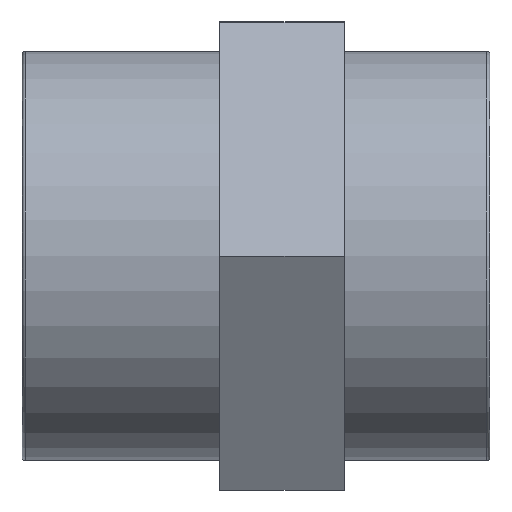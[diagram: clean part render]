
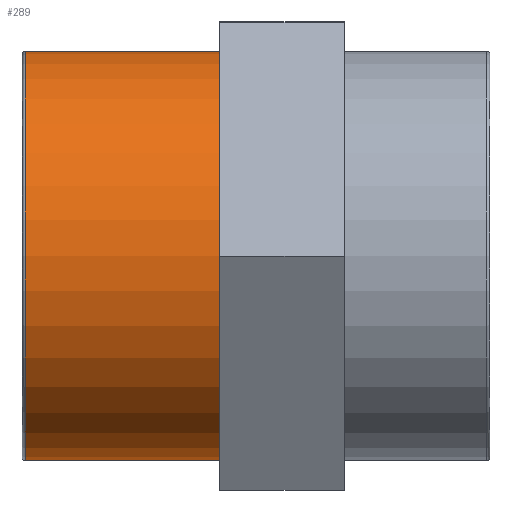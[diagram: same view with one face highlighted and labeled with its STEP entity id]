
A CAD part, top view. The second image highlights one B-rep face of the part: STEP entity #289.
In plain terms, the highlighted cylindrical face has radius 19.689 mm (diameter 39.378 mm), a full revolution.
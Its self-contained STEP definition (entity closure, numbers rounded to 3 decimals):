
#54=CYLINDRICAL_SURFACE('',#323,19.689);
#77=FACE_BOUND('',#123,.T.);
#92=FACE_OUTER_BOUND('',#122,.T.);
#122=EDGE_LOOP('',(#230));
#123=EDGE_LOOP('',(#231));
#150=CIRCLE('',#322,19.689);
#151=CIRCLE('',#324,19.689);
#164=VERTEX_POINT('',#458);
#165=VERTEX_POINT('',#461);
#190=EDGE_CURVE('',#164,#164,#150,.T.);
#191=EDGE_CURVE('',#165,#165,#151,.T.);
#230=ORIENTED_EDGE('',*,*,#191,.T.);
#231=ORIENTED_EDGE('',*,*,#190,.F.);
#289=ADVANCED_FACE('',(#92,#77),#54,.T.);
#322=AXIS2_PLACEMENT_3D('',#459,#378,#379);
#323=AXIS2_PLACEMENT_3D('',#460,#380,#381);
#324=AXIS2_PLACEMENT_3D('',#462,#382,#383);
#378=DIRECTION('center_axis',(-1.,0.,0.));
#379=DIRECTION('ref_axis',(0.,1.,0.));
#380=DIRECTION('center_axis',(-1.,0.,0.));
#381=DIRECTION('ref_axis',(0.,-1.,0.));
#382=DIRECTION('center_axis',(-1.,0.,0.));
#383=DIRECTION('ref_axis',(0.,0.,1.));
#458=CARTESIAN_POINT('',(-22.197,-19.689,0.));
#459=CARTESIAN_POINT('Origin',(-22.197,0.,0.));
#460=CARTESIAN_POINT('Origin',(-13.,0.,0.));
#461=CARTESIAN_POINT('',(-3.5,-19.689,0.));
#462=CARTESIAN_POINT('Origin',(-3.5,0.,0.));
